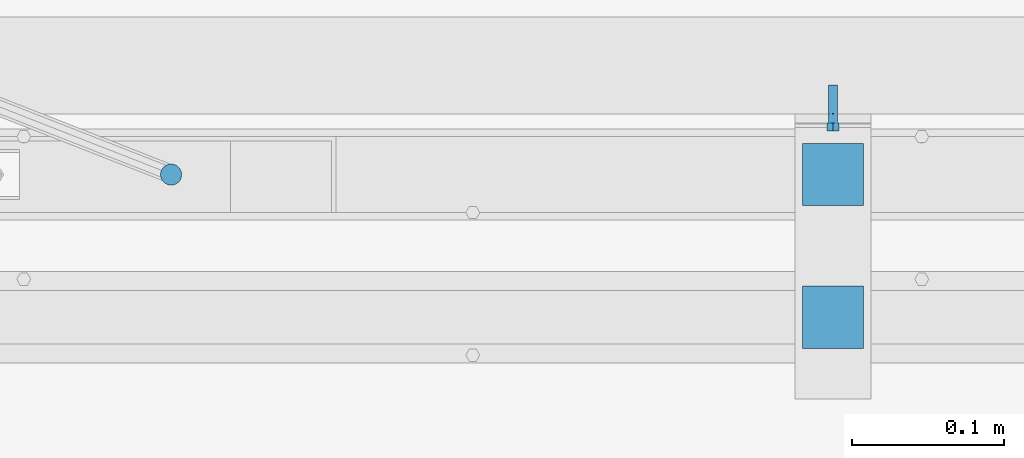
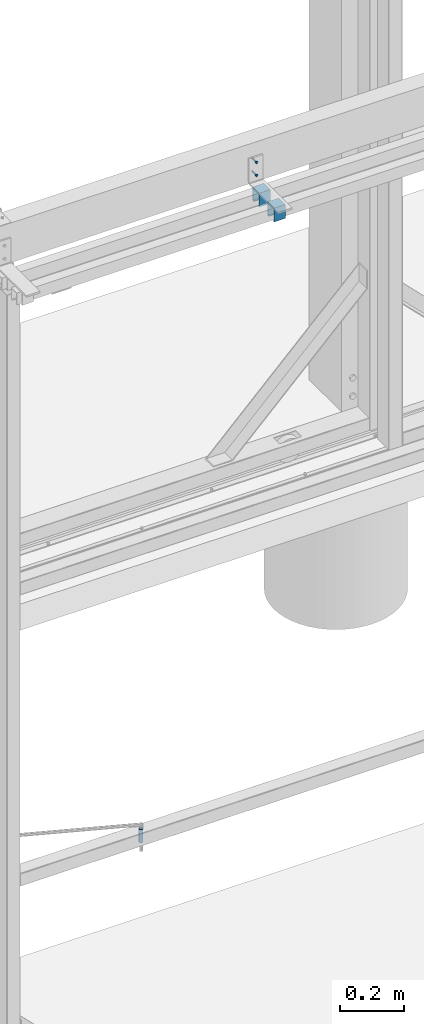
# One storey, part 24 of 91: 2 discrete accessories, 2 mechanical fasteners, 2 elements without a shape of their own.
"""IFC2X3 building model written with IfcOpenShell, lengths in millimetres."""

from ifc_helpers import new_model, si_unit, frame, origin_with_axes, origin_2d_with_axis, place, context, subcontext, project, spatial, polyline, circle, c_section, outline, extrude, source, transform, mapped, material, type_object, element, aggregate, save


model = new_model("IFC2X3")

# Units and contexts
model_context = context("Model", 3, precision=1e-05, world=origin_with_axes())
body_context = subcontext(model_context, "Body", "Model", "MODEL_VIEW")
ifc_project = project(units=[si_unit("LENGTHUNIT", "METRE", prefix="MILLI"), si_unit("AREAUNIT", "SQUARE_METRE"), si_unit("VOLUMEUNIT", "CUBIC_METRE"), si_unit("MASSUNIT", "GRAM", prefix="KILO"), si_unit("TIMEUNIT", "SECOND"), si_unit("PLANEANGLEUNIT", "RADIAN"), si_unit("SOLIDANGLEUNIT", "STERADIAN"), si_unit("THERMODYNAMICTEMPERATUREUNIT", "DEGREE_CELSIUS"), si_unit("LUMINOUSINTENSITYUNIT", "LUMEN")], contexts=[model_context])

# Site, building, storey
site_placement = place(None, origin_with_axes())
site = spatial("IfcSite", under=ifc_project, at=site_placement, Name="Undefined", CompositionType="ELEMENT")
building_placement = place(site_placement, origin_with_axes())
building = spatial("IfcBuilding", under=site, at=building_placement, Name="Undefined", CompositionType="ELEMENT")
storey_placement = place(building_placement, origin_with_axes())
storey = spatial("IfcBuildingStorey", under=building, at=storey_placement, Name="Undefined", CompositionType="ELEMENT", Elevation=0.0)

# Assembly, mechanical fastener
assembly_1_placement = place(storey_placement, origin_with_axes())
assembly_1 = element("IfcElementAssembly", 1, at=assembly_1_placement, inside=storey, Name="SLIDING DOOR", AssemblyPlace="NOTDEFINED", PredefinedType="RIGID_FRAME")
ifc_material_1 = material(Name="8.8S")
discrete_accessory_type_1 = type_object("IfcDiscreteAccessoryType", Name="Bolt assembly")
shared_shape_1 = source(origin_with_axes(), body_context, "Body", "SweptSolid", [
    extrude(circle(Radius=7.0, at=origin_2d_with_axis()), frame((0.0, 0.0033333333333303, 0.0), z_axis=(0.0, 1.0, 0.0), x_axis=(1.0, 0.0, 0.0)), (0.0, 0.0, 1.0), 50.1),
])
mechanical_fastener_1_placement = place(assembly_1_placement, frame((-116320.836232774, 84712.15, 1147.34), z_axis=(1.0, 0.0, 0.0), x_axis=(0.0, -1.0, 0.0)))
mechanical_fastener_1 = element("IfcMechanicalFastener", 2, at=mechanical_fastener_1_placement, type_object=discrete_accessory_type_1, material=ifc_material_1, Name="Bolt assembly", NominalDiameter=12.0, NominalLength=49.9966659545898, context=body_context, shape_type="MappedRepresentation", body=[
    mapped(shared_shape_1, transform((0.0, 0.0, 0.0))),
])
aggregate(assembly_1, [mechanical_fastener_1])

# Assembly, mechanical fastener, discrete accessories
assembly_2_placement = place(storey_placement, origin_with_axes())
assembly_2 = element("IfcElementAssembly", 3, at=assembly_2_placement, inside=storey, Name="DOOR BRACKET", AssemblyPlace="NOTDEFINED", PredefinedType="RIGID_FRAME")
ifc_material_2 = material(Name="TEK_11TPIM")
shared_shape_2 = source(origin_with_axes(), body_context, "Body", "SweptSolid", [
    extrude(circle(Radius=3.0, at=origin_2d_with_axis()), frame((0.0, -6.0, 0.0), z_axis=(0.0, 1.0, 0.0), x_axis=(1.0, 0.0, 0.0)), (0.0, 0.0, 1.0), 6.1),
    extrude(outline(polyline([(4.61880215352, 0.0), (2.30940107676, 4.00000000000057), (-2.30940107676, 4.00000000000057), (-4.61880215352, 0.0), (-2.30940107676, -4.00000000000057), (2.30940107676, -4.00000000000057), (4.61880215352, 0.0)])), frame((0.0, -11.1000000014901, 0.0), z_axis=(0.0, 1.0, 0.0), x_axis=(1.0, 0.0, 0.0)), (0.0, 0.0, 1.0), 5.0),
    extrude(circle(Radius=3.0, at=origin_2d_with_axis()), frame((0.0, -6.10000000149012, 0.0), z_axis=(0.0, 1.0, 0.0), x_axis=(1.0, 0.0, 0.0)), (0.0, 0.0, 1.0), 25.0),
    extrude(circle(Radius=3.0, at=origin_2d_with_axis()), frame((0.0, -6.10000000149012, 0.0), z_axis=(0.0, 1.0, 0.0), x_axis=(1.0, 0.0, 0.0)), (0.0, 0.0, 1.0), 0.1),
    extrude(circle(Radius=3.0, at=origin_2d_with_axis()), frame((0.0, 0.0, 0.0), z_axis=(0.0, 1.0, 0.0), x_axis=(1.0, 0.0, 0.0)), (0.0, 0.0, 1.0), 0.1),
    extrude(outline(polyline([(3.46410161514, 0.0), (1.73205080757, 3.00000000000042), (-1.73205080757, 3.00000000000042), (-3.46410161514, 0.0), (-1.73205080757, -3.00000000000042), (1.73205080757, -3.00000000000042), (3.46410161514, 0.0)])), frame((0.0, 0.1, 0.0), z_axis=(0.0, 1.0, 0.0), x_axis=(1.0, 0.0, 0.0)), (0.0, 0.0, 1.0), 0.1),
])
mechanical_fastener_2_placement = place(assembly_2_placement, frame((-115884.59, 84752.15, 3524.0), z_axis=(1.0, 0.0, 0.0), x_axis=(0.0, 0.0, -1.0)))
mechanical_fastener_2 = element("IfcMechanicalFastener", 4, at=mechanical_fastener_2_placement, type_object=discrete_accessory_type_1, material=ifc_material_2, Name="Bolt assembly", NominalDiameter=6.0, NominalLength=25.0, context=body_context, shape_type="MappedRepresentation", body=[
    mapped(shared_shape_2, transform((0.0, 0.0, 0.0))),
    mapped(shared_shape_2, transform((50.0, 0.0, 0.0))),
])
ifc_material_3 = material(Name="STEEL/250")
discrete_accessory_type_2 = type_object("IfcDiscreteAccessoryType", Name="SLIDING DOOR BRACKET")
discrete_accessory_1_placement = place(assembly_2_placement, frame((-115904.59, 84618.15, 3417.5), z_axis=(0.0, -1.0, 0.0), x_axis=(1.0, 0.0, 0.0)))
discrete_accessory_1 = element("IfcDiscreteAccessory", 5, at=discrete_accessory_1_placement, type_object=discrete_accessory_type_2, material=ifc_material_3, Name="SLIDING DOOR BRACKET", ObjectType="CC41-1.5-7-53", context=body_context, shape_type="SweptSolid", body=[
    extrude(c_section(Depth=41.0, Width=53.0, WallThickness=1.5, Girth=7.0, at=origin_2d_with_axis()), frame((40.0, 0.0, 0.0), z_axis=(-1.0, 0.0, 0.0), x_axis=(0.0, -1.0, 0.0)), (0.0, 0.0, 1.0), 40.0),
])
discrete_accessory_2_placement = place(assembly_2_placement, frame((-115904.59, 84712.15, 3417.5), z_axis=(0.0, -1.0, 0.0), x_axis=(1.0, 0.0, 0.0)))
discrete_accessory_2 = element("IfcDiscreteAccessory", 6, at=discrete_accessory_2_placement, type_object=discrete_accessory_type_2, material=ifc_material_3, Name="SLIDING DOOR BRACKET", ObjectType="CC41-1.5-7-53", context=body_context, shape_type="SweptSolid", body=[
    extrude(c_section(Depth=41.0, Width=53.0, WallThickness=1.5, Girth=7.0, at=origin_2d_with_axis()), frame((40.0, 0.0, 0.0), z_axis=(-1.0, 0.0, 0.0), x_axis=(0.0, -1.0, 0.0)), (0.0, 0.0, 1.0), 40.0),
])
aggregate(assembly_2, [mechanical_fastener_2, discrete_accessory_1, discrete_accessory_2])

save(model, "model.ifc")
